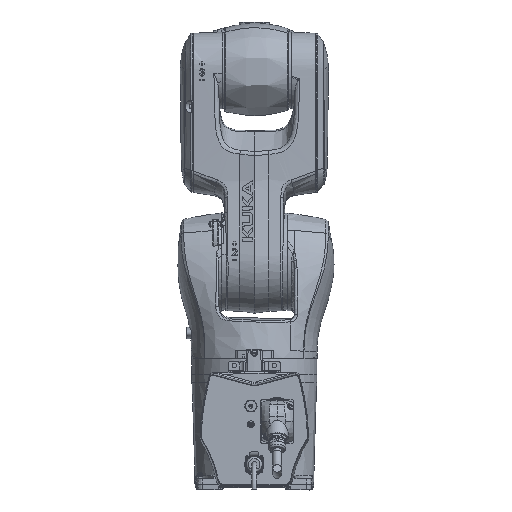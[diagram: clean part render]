
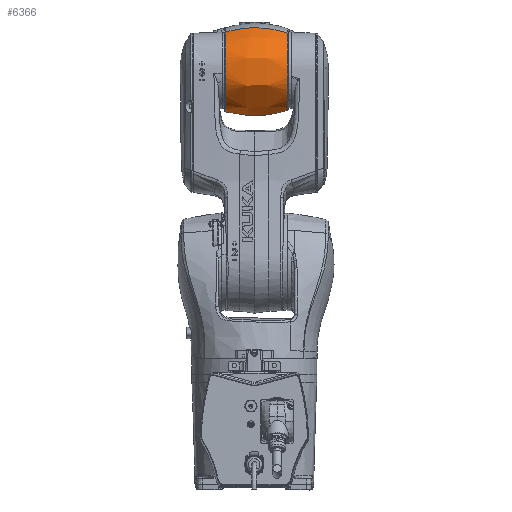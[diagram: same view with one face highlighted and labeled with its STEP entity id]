
A CAD part, left-side view. The second image highlights one B-rep face of the part: STEP entity #6366.
In plain terms, the highlighted free-form (B-spline) face has degree [3, 3] with [4, 4] control points.
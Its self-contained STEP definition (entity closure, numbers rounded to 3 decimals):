
#947=(
BOUNDED_SURFACE()
B_SPLINE_SURFACE(3,3,((#43887,#43888,#43889,#43890),(#43891,#43892,#43893,
#43894),(#43895,#43896,#43897,#43898),(#43899,#43900,#43901,#43902)),
 .UNSPECIFIED.,.F.,.F.,.F.)
B_SPLINE_SURFACE_WITH_KNOTS((4,4),(4,4),(0.,1.),(0.,1.),.UNSPECIFIED.)
GEOMETRIC_REPRESENTATION_ITEM()
RATIONAL_B_SPLINE_SURFACE(((1.,0.341,0.341,1.),
(0.97,0.331,0.331,0.97),
(0.97,0.331,0.331,0.97),
(1.,0.341,0.341,1.)))
REPRESENTATION_ITEM('')
SURFACE()
);
#1787=FACE_OUTER_BOUND('',#9829,.T.);
#3918=B_SPLINE_CURVE_WITH_KNOTS('',3,(#43847,#43848,#43849,#43850),
 .UNSPECIFIED.,.F.,.F.,(4,4),(0.,1.),.UNSPECIFIED.);
#3919=B_SPLINE_CURVE_WITH_KNOTS('',3,(#43852,#43853,#43854,#43855,#43856,
#43857,#43858,#43859,#43860,#43861,#43862),.UNSPECIFIED.,.F.,.F.,(4,1,1,
1,1,1,1,1,4),(0.,0.114,0.243,0.373,0.503,
0.632,0.762,0.892,1.),.UNSPECIFIED.);
#3920=B_SPLINE_CURVE_WITH_KNOTS('',3,(#43864,#43865,#43866,#43867),
 .UNSPECIFIED.,.F.,.F.,(4,4),(0.,1.),.UNSPECIFIED.);
#3921=B_SPLINE_CURVE_WITH_KNOTS('',3,(#43871,#43872,#43873,#43874),
 .UNSPECIFIED.,.F.,.F.,(4,4),(0.,1.),.UNSPECIFIED.);
#3922=B_SPLINE_CURVE_WITH_KNOTS('',3,(#43876,#43877,#43878,#43879,#43880,
#43881),.UNSPECIFIED.,.F.,.F.,(4,2,4),(0.,0.5,1.),.UNSPECIFIED.);
#3923=B_SPLINE_CURVE_WITH_KNOTS('',3,(#43883,#43884,#43885,#43886),
 .UNSPECIFIED.,.F.,.F.,(4,4),(0.,1.),.UNSPECIFIED.);
#6366=ADVANCED_FACE('',(#1787),#947,.T.);
#9829=EDGE_LOOP('',(#12292,#12293,#12294,#12295,#12296,#12297,#12298,#12299));
#12292=ORIENTED_EDGE('',*,*,#25533,.T.);
#12293=ORIENTED_EDGE('',*,*,#25534,.T.);
#12294=ORIENTED_EDGE('',*,*,#25535,.F.);
#12295=ORIENTED_EDGE('',*,*,#25536,.T.);
#12296=ORIENTED_EDGE('',*,*,#25537,.T.);
#12297=ORIENTED_EDGE('',*,*,#25538,.T.);
#12298=ORIENTED_EDGE('',*,*,#25539,.F.);
#12299=ORIENTED_EDGE('',*,*,#25540,.T.);
#22263=VERTEX_POINT('',#43845);
#22264=VERTEX_POINT('',#43846);
#22265=VERTEX_POINT('',#43851);
#22266=VERTEX_POINT('',#43863);
#22267=VERTEX_POINT('',#43868);
#22268=VERTEX_POINT('',#43870);
#22269=VERTEX_POINT('',#43875);
#22270=VERTEX_POINT('',#43882);
#25533=EDGE_CURVE('',#22263,#22264,#30486,.T.);
#25534=EDGE_CURVE('',#22264,#22265,#3918,.T.);
#25535=EDGE_CURVE('',#22266,#22265,#3919,.T.);
#25536=EDGE_CURVE('',#22266,#22267,#3920,.T.);
#25537=EDGE_CURVE('',#22267,#22268,#30487,.T.);
#25538=EDGE_CURVE('',#22268,#22269,#3921,.T.);
#25539=EDGE_CURVE('',#22270,#22269,#3922,.T.);
#25540=EDGE_CURVE('',#22270,#22263,#3923,.T.);
#30486=CIRCLE('',#34437,73.152);
#30487=CIRCLE('',#34438,70.597);
#34437=AXIS2_PLACEMENT_3D('',#43844,#36948,#36949);
#34438=AXIS2_PLACEMENT_3D('',#43869,#36950,#36951);
#36948=DIRECTION('',(0.,-1.,0.));
#36949=DIRECTION('',(0.,0.,-1.));
#36950=DIRECTION('',(0.,1.,0.));
#36951=DIRECTION('',(-1.,0.,0.));
#43844=CARTESIAN_POINT('',(25.,49.869,735.));
#43845=CARTESIAN_POINT('',(-3.652,49.869,802.307));
#43846=CARTESIAN_POINT('',(45.528,49.869,664.788));
#43847=CARTESIAN_POINT('',(45.528,49.869,664.788));
#43848=CARTESIAN_POINT('',(45.737,49.869,664.849));
#43849=CARTESIAN_POINT('',(45.946,49.87,664.911));
#43850=CARTESIAN_POINT('',(46.154,49.87,664.974));
#43851=CARTESIAN_POINT('',(46.154,49.87,664.974));
#43852=CARTESIAN_POINT('',(44.867,-58.229,667.256));
#43853=CARTESIAN_POINT('',(45.556,-54.081,666.025));
#43854=CARTESIAN_POINT('',(46.887,-45.087,663.677));
#43855=CARTESIAN_POINT('',(48.41,-31.099,661.047));
#43856=CARTESIAN_POINT('',(49.387,-16.481,659.378));
#43857=CARTESIAN_POINT('',(49.761,-2.039,658.747));
#43858=CARTESIAN_POINT('',(49.557,12.023,659.091));
#43859=CARTESIAN_POINT('',(48.827,25.703,660.334));
#43860=CARTESIAN_POINT('',(47.67,38.3,662.32));
#43861=CARTESIAN_POINT('',(46.664,46.275,664.077));
#43862=CARTESIAN_POINT('',(46.154,49.87,664.974));
#43863=CARTESIAN_POINT('',(44.867,-58.229,667.256));
#43864=CARTESIAN_POINT('',(44.867,-58.229,667.256));
#43865=CARTESIAN_POINT('',(44.685,-58.229,667.202));
#43866=CARTESIAN_POINT('',(44.502,-58.229,667.15));
#43867=CARTESIAN_POINT('',(44.319,-58.229,667.097));
#43868=CARTESIAN_POINT('',(44.319,-58.229,667.097));
#43869=CARTESIAN_POINT('',(25.,-58.229,735.));
#43870=CARTESIAN_POINT('',(-3.122,-58.229,799.754));
#43871=CARTESIAN_POINT('',(-3.122,-58.229,799.754));
#43872=CARTESIAN_POINT('',(-2.948,-58.229,799.83));
#43873=CARTESIAN_POINT('',(-2.773,-58.229,799.905));
#43874=CARTESIAN_POINT('',(-2.597,-58.229,799.98));
#43875=CARTESIAN_POINT('',(-2.597,-58.229,799.98));
#43876=CARTESIAN_POINT('',(-3.05,49.869,802.56));
#43877=CARTESIAN_POINT('',(-3.858,33.269,807.256));
#43878=CARTESIAN_POINT('',(-4.218,15.933,809.713));
#43879=CARTESIAN_POINT('',(-4.142,-20.714,809.231));
#43880=CARTESIAN_POINT('',(-3.689,-39.959,806.097));
#43881=CARTESIAN_POINT('',(-2.597,-58.229,799.98));
#43882=CARTESIAN_POINT('',(-3.05,49.869,802.56));
#43883=CARTESIAN_POINT('',(-3.05,49.869,802.56));
#43884=CARTESIAN_POINT('',(-3.251,49.869,802.477));
#43885=CARTESIAN_POINT('',(-3.451,49.869,802.392));
#43886=CARTESIAN_POINT('',(-3.652,49.869,802.307));
#43887=CARTESIAN_POINT('',(48.806,50.503,666.019));
#43888=CARTESIAN_POINT('',(-86.142,50.503,619.448));
#43889=CARTESIAN_POINT('',(-134.213,50.503,753.869));
#43890=CARTESIAN_POINT('',(-0.336,50.503,803.434));
#43891=CARTESIAN_POINT('',(52.153,14.348,656.321));
#43892=CARTESIAN_POINT('',(-101.768,14.348,603.201));
#43893=CARTESIAN_POINT('',(-156.598,14.348,756.521));
#43894=CARTESIAN_POINT('',(-3.898,14.348,813.055));
#43895=CARTESIAN_POINT('',(51.863,-23.224,657.16));
#43896=CARTESIAN_POINT('',(-100.416,-23.224,604.607));
#43897=CARTESIAN_POINT('',(-154.661,-23.224,756.292));
#43898=CARTESIAN_POINT('',(-3.59,-23.224,812.222));
#43899=CARTESIAN_POINT('',(47.963,-58.854,668.462));
#43900=CARTESIAN_POINT('',(-82.206,-58.854,623.54));
#43901=CARTESIAN_POINT('',(-128.575,-58.854,753.2));
#43902=CARTESIAN_POINT('',(0.561,-58.854,801.01));
